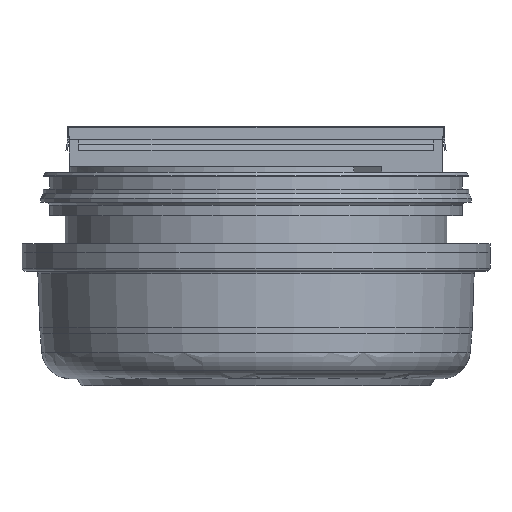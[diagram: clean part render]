
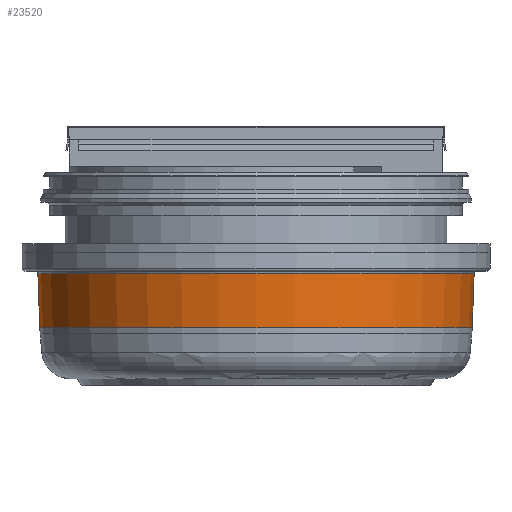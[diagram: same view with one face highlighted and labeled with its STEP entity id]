
A CAD part, front view. The second image highlights one B-rep face of the part: STEP entity #23520.
In plain terms, the highlighted conical face has half-angle 2 degrees and reference radius 1000 mm.
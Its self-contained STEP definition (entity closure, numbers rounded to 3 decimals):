
#160=CONICAL_SURFACE('',#25169,1000.,0.035);
#2368=CIRCLE('',#25145,75.966);
#2381=CIRCLE('',#25170,75.31);
#3498=FACE_OUTER_BOUND('',#4873,.T.);
#4873=EDGE_LOOP('',(#16663,#16664,#16665,#16666));
#6459=LINE('',#42922,#7899);
#6477=LINE('',#44446,#7917);
#7899=VECTOR('',#28357,18.803);
#7917=VECTOR('',#28471,18.803);
#9513=VERTEX_POINT('',#42821);
#9516=VERTEX_POINT('',#42920);
#9561=VERTEX_POINT('',#44443);
#9562=VERTEX_POINT('',#44445);
#12040=EDGE_CURVE('',#9513,#9516,#6459,.T.);
#12135=EDGE_CURVE('',#9561,#9562,#6477,.T.);
#12192=EDGE_CURVE('',#9516,#9562,#2368,.T.);
#12221=EDGE_CURVE('',#9561,#9513,#2381,.T.);
#16663=ORIENTED_EDGE('',*,*,#12221,.T.);
#16664=ORIENTED_EDGE('',*,*,#12040,.T.);
#16665=ORIENTED_EDGE('',*,*,#12192,.T.);
#16666=ORIENTED_EDGE('',*,*,#12135,.F.);
#23520=ADVANCED_FACE('',(#3498),#160,.T.);
#25145=AXIS2_PLACEMENT_3D('',#45021,#28583,#28584);
#25169=AXIS2_PLACEMENT_3D('',#45365,#28632,#28633);
#25170=AXIS2_PLACEMENT_3D('',#45366,#28634,#28635);
#28357=DIRECTION('',(0.03,0.999,-0.017));
#28471=DIRECTION('',(-0.03,0.999,-0.017));
#28583=DIRECTION('center_axis',(0.,-1.,0.));
#28584=DIRECTION('ref_axis',(0.,0.,
1.));
#28632=DIRECTION('center_axis',(0.,1.,0.));
#28633=DIRECTION('ref_axis',(0.,0.,1.));
#28634=DIRECTION('center_axis',(0.,1.,0.));
#28635=DIRECTION('ref_axis',(0.,0.,
1.));
#42821=CARTESIAN_POINT('',(65.22,-26.257,-37.655));
#42920=CARTESIAN_POINT('',(65.789,-7.465,-37.983));
#42922=CARTESIAN_POINT('',(65.22,-26.257,-37.655));
#44443=CARTESIAN_POINT('',(-65.22,-26.257,-37.655));
#44445=CARTESIAN_POINT('',(-65.789,-7.465,-37.983));
#44446=CARTESIAN_POINT('',(-65.22,-26.257,-37.655));
#45021=CARTESIAN_POINT('Origin',(0.,-7.465,
0.));
#45365=CARTESIAN_POINT('Origin',(0.,26453.398,0.));
#45366=CARTESIAN_POINT('Origin',(0.,-26.257,0.));
